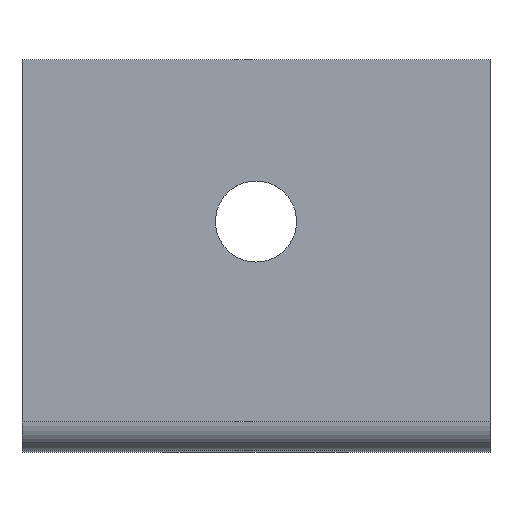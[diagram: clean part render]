
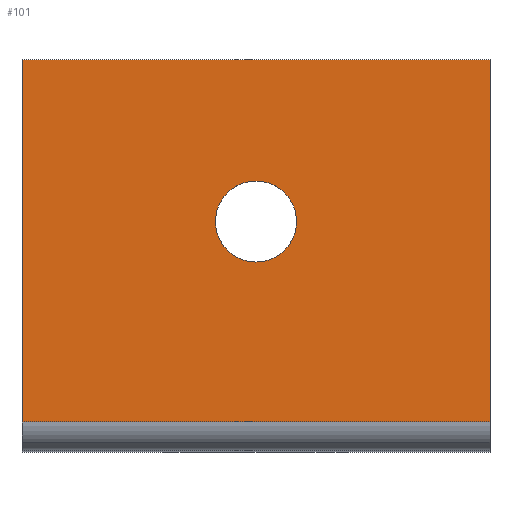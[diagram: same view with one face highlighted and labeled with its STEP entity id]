
A CAD part, top view. The second image highlights one B-rep face of the part: STEP entity #101.
In plain terms, the highlighted planar face has unit normal (0, 0, 1).
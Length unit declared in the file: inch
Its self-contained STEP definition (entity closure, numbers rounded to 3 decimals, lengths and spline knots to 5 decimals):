
#101=ADVANCED_FACE('',(#198,#199),#200,.T.);
#198=FACE_OUTER_BOUND('',#343,.T.);
#199=FACE_BOUND('',#344,.T.);
#200=PLANE('',#345);
#343=EDGE_LOOP('',(#544,#545,#546,#547));
#344=EDGE_LOOP('',(#548,#549,#550,#551));
#345=AXIS2_PLACEMENT_3D('',#552,#553,#554);
#544=ORIENTED_EDGE('',*,*,#632,.F.);
#545=ORIENTED_EDGE('',*,*,#672,.T.);
#546=ORIENTED_EDGE('',*,*,#666,.F.);
#547=ORIENTED_EDGE('',*,*,#582,.T.);
#548=ORIENTED_EDGE('',*,*,#647,.T.);
#549=ORIENTED_EDGE('',*,*,#643,.T.);
#550=ORIENTED_EDGE('',*,*,#652,.T.);
#551=ORIENTED_EDGE('',*,*,#669,.T.);
#552=CARTESIAN_POINT('',(0.,0.98532,3.49883));
#553=DIRECTION('',(0.0,0.0,1.0));
#554=DIRECTION('',(0.0,-1.0,0.0));
#582=EDGE_CURVE('',#687,#684,#688,.T.);
#632=EDGE_CURVE('',#767,#684,#769,.T.);
#643=EDGE_CURVE('',#783,#784,#785,.T.);
#647=EDGE_CURVE('',#789,#783,#790,.T.);
#652=EDGE_CURVE('',#784,#795,#796,.T.);
#666=EDGE_CURVE('',#687,#811,#813,.T.);
#669=EDGE_CURVE('',#795,#789,#816,.T.);
#672=EDGE_CURVE('',#767,#811,#819,.T.);
#684=VERTEX_POINT('',#833);
#687=VERTEX_POINT('',#836);
#688=LINE('',#837,#838);
#767=VERTEX_POINT('',#958);
#769=LINE('',#960,#961);
#783=VERTEX_POINT('',#986);
#784=VERTEX_POINT('',#987);
#785=B_SPLINE_CURVE_WITH_KNOTS('',3,(#988,#989,#990,#991),.UNSPECIFIED.,.F.,.F.,(4,4),(-1.0,-0.0),.UNSPECIFIED.);
#789=VERTEX_POINT('',#997);
#790=B_SPLINE_CURVE_WITH_KNOTS('',3,(#998,#999,#1000,#1001),.UNSPECIFIED.,.F.,.F.,(4,4),(-1.0,-0.0),.UNSPECIFIED.);
#795=VERTEX_POINT('',#1007);
#796=B_SPLINE_CURVE_WITH_KNOTS('',3,(#1008,#1009,#1010,#1011),.UNSPECIFIED.,.F.,.F.,(4,4),(-1.0,-0.0),.UNSPECIFIED.);
#811=VERTEX_POINT('',#1040);
#813=LINE('',#1043,#1044);
#816=B_SPLINE_CURVE_WITH_KNOTS('',3,(#1047,#1048,#1049,#1050),.UNSPECIFIED.,.F.,.F.,(4,4),(-1.0,-0.0),.UNSPECIFIED.);
#819=LINE('',#1053,#1054);
#833=CARTESIAN_POINT('',(0.,0.40629,3.49883));
#836=CARTESIAN_POINT('',(0.,1.66435,3.49883));
#837=CARTESIAN_POINT('',(0.,1.66435,3.49883));
#838=VECTOR('',#1067,1.0);
#958=CARTESIAN_POINT('',(1.625,0.40629,3.49883));
#960=CARTESIAN_POINT('',(0.,0.40629,3.49883));
#961=VECTOR('',#1124,1.0);
#986=CARTESIAN_POINT('',(0.8125,1.24267,3.49883));
#987=CARTESIAN_POINT('',(0.95312,1.10204,3.49883));
#988=CARTESIAN_POINT('',(0.8125,1.24267,3.49883));
#989=CARTESIAN_POINT('',(0.89016,1.24267,3.49883));
#990=CARTESIAN_POINT('',(0.95312,1.1797,3.49883));
#991=CARTESIAN_POINT('',(0.95312,1.10204,3.49883));
#997=CARTESIAN_POINT('',(0.67187,1.10204,3.49883));
#998=CARTESIAN_POINT('',(0.67187,1.10204,3.49883));
#999=CARTESIAN_POINT('',(0.67187,1.1797,3.49883));
#1000=CARTESIAN_POINT('',(0.73484,1.24267,3.49883));
#1001=CARTESIAN_POINT('',(0.8125,1.24267,3.49883));
#1007=CARTESIAN_POINT('',(0.8125,0.96142,3.49883));
#1008=CARTESIAN_POINT('',(0.95312,1.10204,3.49883));
#1009=CARTESIAN_POINT('',(0.95312,1.02438,3.49883));
#1010=CARTESIAN_POINT('',(0.89016,0.96142,3.49883));
#1011=CARTESIAN_POINT('',(0.8125,0.96142,3.49883));
#1040=CARTESIAN_POINT('',(1.625,1.66435,3.49883));
#1043=CARTESIAN_POINT('',(0.,1.66435,3.49883));
#1044=VECTOR('',#1142,1.0);
#1047=CARTESIAN_POINT('',(0.8125,0.96142,3.49883));
#1048=CARTESIAN_POINT('',(0.73484,0.96142,3.49883));
#1049=CARTESIAN_POINT('',(0.67187,1.02438,3.49883));
#1050=CARTESIAN_POINT('',(0.67187,1.10204,3.49883));
#1053=CARTESIAN_POINT('',(1.625,1.66435,3.49883));
#1054=VECTOR('',#1143,1.0);
#1067=DIRECTION('',(0.0,-1.0,0.0));
#1124=DIRECTION('',(-1.0,-0.0,-0.0));
#1142=DIRECTION('',(1.0,0.0,0.0));
#1143=DIRECTION('',(0.0,1.0,0.0));
